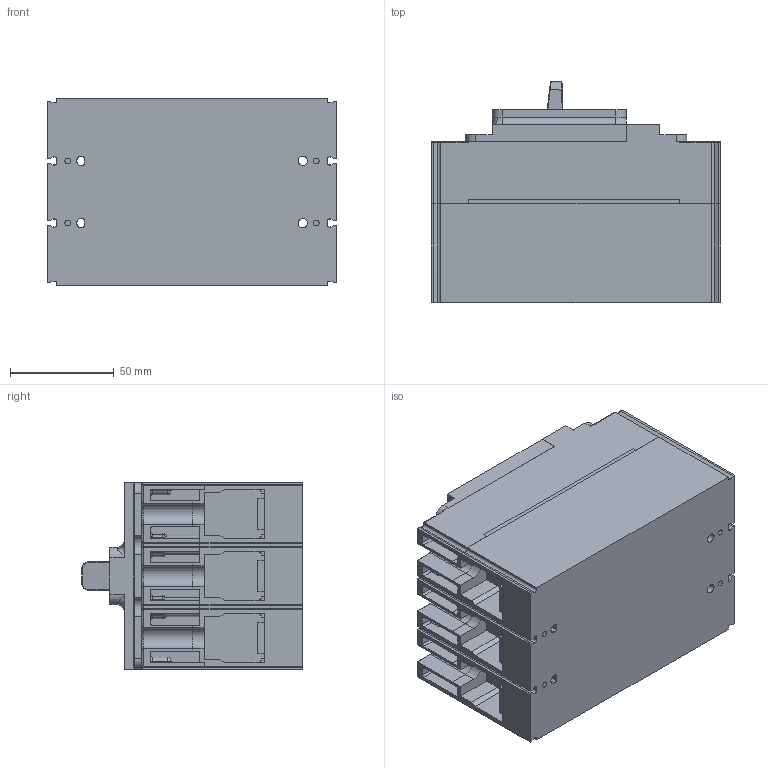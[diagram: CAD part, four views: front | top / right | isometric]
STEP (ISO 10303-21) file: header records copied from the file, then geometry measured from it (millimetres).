
FILE_DESCRIPTION((''),'2;1');
FILE_NAME('U1_3P_TOTAL_ASSY_ASM_ASM_ASM','2016-09-08T',('HHI'),(''),'PRO/ENGINEER BY PARAMETRIC TECHNOLOGY CORPORATION, 2012453','PRO/ENGINEER BY PARAMETRIC TECHNOLOGY CORPORATION, 2012453','');
FILE_SCHEMA(('CONFIG_CONTROL_DESIGN'));
Products named in the file (9): U1_3P_BASE; MANIFOLD_SOLID_BREP_107333; U1_HANDLE_ASM_ASM; U1_3P_LEVER_ASSY_ASM_ASM_ASM; U1_3P_TOTAL_MAIN_ASSY_ASM_ASM_ASM; U1_3P_MAIN_COVER; U1_FRONT_COVER; U1_TRIP_BUTTON; U1_3P_TOTAL_ASSY_ASM_ASM_ASM
Assembly tree (8 placements, depth 5):
  U1_3P_TOTAL_ASSY_ASM_ASM_ASM
    U1_3P_BASE
    U1_3P_TOTAL_MAIN_ASSY_ASM_ASM_ASM
      U1_3P_LEVER_ASSY_ASM_ASM_ASM
        U1_HANDLE_ASM_ASM
          MANIFOLD_SOLID_BREP_107333
    U1_3P_MAIN_COVER
    U1_FRONT_COVER
    U1_TRIP_BUTTON
Bounding box: 140 x 106.69 x 90 mm (x, y, z)
Volume: 927755.2 mm3; surface area: 155349.5 mm2
Topology: 5 solids, 11 shells, 1763 faces, 4924 edges, 3162 vertices
Faces by surface type: plane 814, cylinder 579, torus 156, extrusion 78, bspline 52, sphere 44, cone 40
Entity records: 62004 total; most frequent: CARTESIAN_POINT 16649, ORIENTED_EDGE 9750, DIRECTION 9209, EDGE_CURVE 4875, VERTEX_POINT 3162, AXIS2_PLACEMENT_3D 3147, VECTOR 2915, LINE 2837
